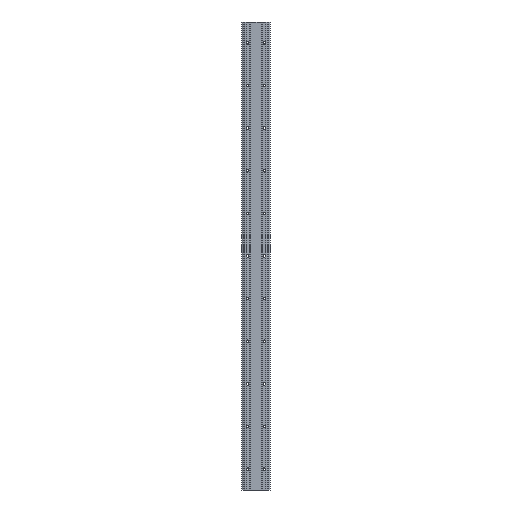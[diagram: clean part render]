
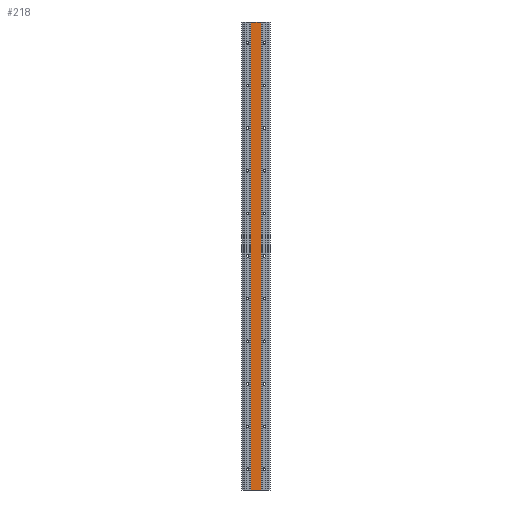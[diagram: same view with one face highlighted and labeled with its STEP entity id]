
A CAD part, front view. The second image highlights one B-rep face of the part: STEP entity #218.
In plain terms, the highlighted planar face has unit normal (0, -1, 0).
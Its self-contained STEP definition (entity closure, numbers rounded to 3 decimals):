
#218=ADVANCED_FACE('',(#576),#577,.T.);
#576=FACE_OUTER_BOUND('',#938,.T.);
#577=PLANE('',#939);
#938=EDGE_LOOP('',(#2037,#2038,#2039,#2040));
#939=AXIS2_PLACEMENT_3D('',#2041,#2042,#2043);
#2037=ORIENTED_EDGE('',*,*,#2500,.T.);
#2038=ORIENTED_EDGE('',*,*,#2501,.F.);
#2039=ORIENTED_EDGE('',*,*,#2502,.T.);
#2040=ORIENTED_EDGE('',*,*,#2498,.T.);
#2041=CARTESIAN_POINT('',(0.0,9.7,0.0));
#2042=DIRECTION('',(0.0,-1.0,0.0));
#2043=DIRECTION('',(1.0,0.0,0.0));
#2498=EDGE_CURVE('',#3113,#3111,#3114,.T.);
#2500=EDGE_CURVE('',#3111,#3116,#3117,.T.);
#2501=EDGE_CURVE('',#3118,#3116,#3119,.T.);
#2502=EDGE_CURVE('',#3118,#3113,#3120,.T.);
#3111=VERTEX_POINT('',#3892);
#3113=VERTEX_POINT('',#3895);
#3114=LINE('',#3896,#3897);
#3116=VERTEX_POINT('',#3900);
#3117=LINE('',#3901,#3902);
#3118=VERTEX_POINT('',#3903);
#3119=LINE('',#3904,#3905);
#3120=LINE('',#3906,#3907);
#3892=CARTESIAN_POINT('',(22.5,9.7,1976.0));
#3895=CARTESIAN_POINT('',(22.5,9.7,0.0));
#3896=CARTESIAN_POINT('',(22.5,9.7,0.0));
#3897=VECTOR('',#4682,1.0);
#3900=CARTESIAN_POINT('',(-22.5,9.7,1976.0));
#3901=CARTESIAN_POINT('',(-22.5,9.7,1976.0));
#3902=VECTOR('',#4684,1.0);
#3903=CARTESIAN_POINT('',(-22.5,9.7,0.0));
#3904=CARTESIAN_POINT('',(-22.5,9.7,0.0));
#3905=VECTOR('',#4685,1.0);
#3906=CARTESIAN_POINT('',(-22.5,9.7,0.0));
#3907=VECTOR('',#4686,1.0);
#4682=DIRECTION('',(0.0,0.0,1.0));
#4684=DIRECTION('',(-1.0,-0.0,-0.0));
#4685=DIRECTION('',(0.0,0.0,1.0));
#4686=DIRECTION('',(1.0,0.0,0.0));
